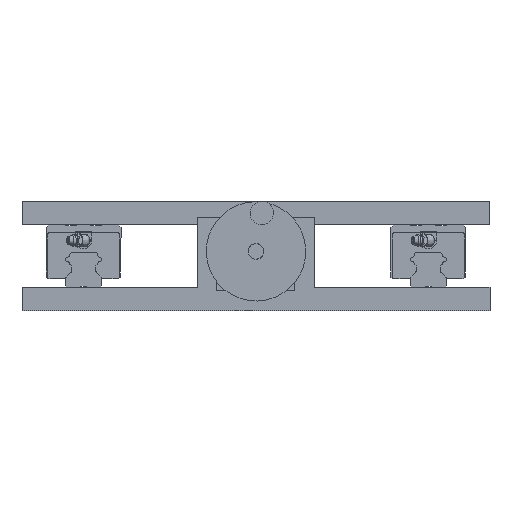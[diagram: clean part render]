
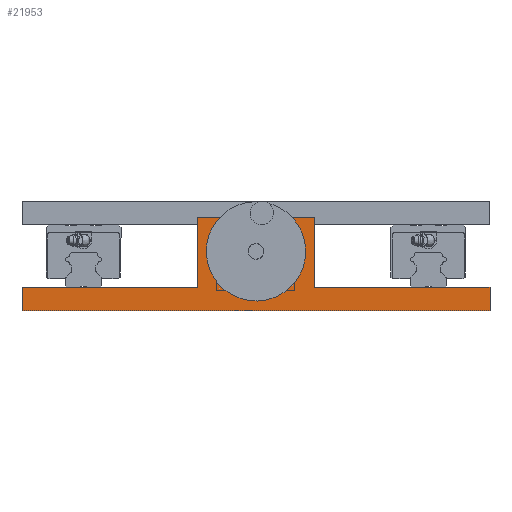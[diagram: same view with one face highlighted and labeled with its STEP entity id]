
A CAD part, front view. The second image highlights one B-rep face of the part: STEP entity #21953.
In plain terms, the highlighted planar face has unit normal (0, -1, 0).
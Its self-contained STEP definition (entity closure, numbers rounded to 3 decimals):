
#325 = EDGE_CURVE ( 'NONE', #37382, #14795, #24314, .T. ) ;
#616 = AXIS2_PLACEMENT_3D ( 'NONE', #9448, #18464, #939 ) ;
#887 = EDGE_CURVE ( 'NONE', #13513, #11918, #2914, .T. ) ;
#939 = DIRECTION ( 'NONE',  ( 0., 0., 1. ) ) ;
#1176 = CARTESIAN_POINT ( 'NONE',  ( 73.378, 17.677, 281.666 ) ) ;
#1949 = CARTESIAN_POINT ( 'NONE',  ( -39.122, 17.677, 236.666 ) ) ;
#2886 = DIRECTION ( 'NONE',  ( 1., 0., 0. ) ) ;
#2914 = CIRCLE ( 'NONE', #22353, 5. ) ;
#3564 = ORIENTED_EDGE ( 'NONE', *, *, #21826, .F. ) ;
#4345 = CARTESIAN_POINT ( 'NONE',  ( 148.378, 17.677, 236.666 ) ) ;
#4479 = PLANE ( 'NONE',  #9711 ) ;
#4854 = DIRECTION ( 'NONE',  ( 0., 1., 0. ) ) ;
#5049 = DIRECTION ( 'NONE',  ( 0., 0., -1. ) ) ;
#5397 = CARTESIAN_POINT ( 'NONE',  ( 148.378, 17.677, 281.666 ) ) ;
#5402 = VERTEX_POINT ( 'NONE', #19470 ) ;
#6240 = CARTESIAN_POINT ( 'NONE',  ( 110.878, 17.677, 259.666 ) ) ;
#7334 = EDGE_CURVE ( 'NONE', #16078, #31750, #29229, .T. ) ;
#7681 = CARTESIAN_POINT ( 'NONE',  ( 73.378, 17.677, 281.666 ) ) ;
#8345 = EDGE_LOOP ( 'NONE', ( #28162, #22720 ) ) ;
#8401 = ORIENTED_EDGE ( 'NONE', *, *, #10851, .F. ) ;
#8778 = CARTESIAN_POINT ( 'NONE',  ( -39.122, 17.677, 236.666 ) ) ;
#9448 = CARTESIAN_POINT ( 'NONE',  ( 110.878, 17.677, 259.666 ) ) ;
#9623 = VECTOR ( 'NONE', #14375, 1000. ) ;
#9711 = AXIS2_PLACEMENT_3D ( 'NONE', #1949, #4854, #16395 ) ;
#9946 = DIRECTION ( 'NONE',  ( 1., 0., 0. ) ) ;
#10312 = CARTESIAN_POINT ( 'NONE',  ( 260.878, 17.677, 236.666 ) ) ;
#10357 = VECTOR ( 'NONE', #5049, 1000. ) ;
#10851 = EDGE_CURVE ( 'NONE', #5402, #12912, #35937, .T. ) ;
#11128 = EDGE_CURVE ( 'NONE', #32484, #37382, #32739, .T. ) ;
#11133 = EDGE_CURVE ( 'NONE', #5402, #16078, #37291, .T. ) ;
#11272 = CARTESIAN_POINT ( 'NONE',  ( 110.878, 17.677, 264.666 ) ) ;
#11518 = CARTESIAN_POINT ( 'NONE',  ( -39.122, 17.677, 221.666 ) ) ;
#11918 = VERTEX_POINT ( 'NONE', #11272 ) ;
#11947 = DIRECTION ( 'NONE',  ( 0., 0., 1. ) ) ;
#12592 = CIRCLE ( 'NONE', #616, 5. ) ;
#12675 = ORIENTED_EDGE ( 'NONE', *, *, #17898, .T. ) ;
#12912 = VERTEX_POINT ( 'NONE', #17408 ) ;
#13513 = VERTEX_POINT ( 'NONE', #20306 ) ;
#13650 = ORIENTED_EDGE ( 'NONE', *, *, #11133, .T. ) ;
#13864 = VECTOR ( 'NONE', #16452, 1000. ) ;
#14179 = CARTESIAN_POINT ( 'NONE',  ( 73.378, 17.677, 281.666 ) ) ;
#14373 = VERTEX_POINT ( 'NONE', #7681 ) ;
#14375 = DIRECTION ( 'NONE',  ( 0., 0., -1. ) ) ;
#14795 = VERTEX_POINT ( 'NONE', #10312 ) ;
#16078 = VERTEX_POINT ( 'NONE', #22199 ) ;
#16373 = VECTOR ( 'NONE', #29157, 1000. ) ;
#16395 = DIRECTION ( 'NONE',  ( 0., 0., 1. ) ) ;
#16452 = DIRECTION ( 'NONE',  ( 1., 0., 0. ) ) ;
#17135 = LINE ( 'NONE', #28149, #10357 ) ;
#17408 = CARTESIAN_POINT ( 'NONE',  ( 73.378, 17.677, 236.666 ) ) ;
#17417 = ORIENTED_EDGE ( 'NONE', *, *, #7334, .T. ) ;
#17898 = EDGE_CURVE ( 'NONE', #14373, #12912, #18206, .T. ) ;
#18206 = LINE ( 'NONE', #14179, #16373 ) ;
#18464 = DIRECTION ( 'NONE',  ( 0., -1., 0. ) ) ;
#19224 = FACE_BOUND ( 'NONE', #8345, .T. ) ;
#19470 = CARTESIAN_POINT ( 'NONE',  ( -39.122, 17.677, 236.666 ) ) ;
#20306 = CARTESIAN_POINT ( 'NONE',  ( 110.878, 17.677, 254.666 ) ) ;
#20550 = VECTOR ( 'NONE', #37307, 1000. ) ;
#20913 = ORIENTED_EDGE ( 'NONE', *, *, #11128, .F. ) ;
#20963 = DIRECTION ( 'NONE',  ( 0., 0., -1. ) ) ;
#21826 = EDGE_CURVE ( 'NONE', #14373, #32484, #27880, .T. ) ;
#21953 = ADVANCED_FACE ( 'NONE', ( #19224, #35523 ), #4479, .F. ) ;
#22199 = CARTESIAN_POINT ( 'NONE',  ( -39.122, 17.677, 221.666 ) ) ;
#22353 = AXIS2_PLACEMENT_3D ( 'NONE', #6240, #34999, #11947 ) ;
#22720 = ORIENTED_EDGE ( 'NONE', *, *, #887, .F. ) ;
#22756 = ORIENTED_EDGE ( 'NONE', *, *, #325, .F. ) ;
#22950 = ORIENTED_EDGE ( 'NONE', *, *, #32791, .F. ) ;
#23750 = VECTOR ( 'NONE', #2886, 1000. ) ;
#24027 = EDGE_LOOP ( 'NONE', ( #17417, #22950, #22756, #20913, #3564, #12675, #8401, #13650 ) ) ;
#24314 = LINE ( 'NONE', #24957, #13864 ) ;
#24957 = CARTESIAN_POINT ( 'NONE',  ( -39.122, 17.677, 236.666 ) ) ;
#25153 = VECTOR ( 'NONE', #9946, 1000. ) ;
#26540 = CARTESIAN_POINT ( 'NONE',  ( 148.378, 17.677, 281.666 ) ) ;
#27880 = LINE ( 'NONE', #1176, #25153 ) ;
#28149 = CARTESIAN_POINT ( 'NONE',  ( 260.878, 17.677, 236.666 ) ) ;
#28162 = ORIENTED_EDGE ( 'NONE', *, *, #32918, .F. ) ;
#29157 = DIRECTION ( 'NONE',  ( 0., 0., -1. ) ) ;
#29229 = LINE ( 'NONE', #11518, #23750 ) ;
#31750 = VERTEX_POINT ( 'NONE', #33577 ) ;
#32484 = VERTEX_POINT ( 'NONE', #5397 ) ;
#32739 = LINE ( 'NONE', #26540, #9623 ) ;
#32791 = EDGE_CURVE ( 'NONE', #14795, #31750, #17135, .T. ) ;
#32918 = EDGE_CURVE ( 'NONE', #11918, #13513, #12592, .T. ) ;
#33577 = CARTESIAN_POINT ( 'NONE',  ( 260.878, 17.677, 221.666 ) ) ;
#34119 = VECTOR ( 'NONE', #20963, 1000. ) ;
#34517 = CARTESIAN_POINT ( 'NONE',  ( -39.122, 17.677, 236.666 ) ) ;
#34999 = DIRECTION ( 'NONE',  ( 0., -1., 0. ) ) ;
#35523 = FACE_OUTER_BOUND ( 'NONE', #24027, .T. ) ;
#35937 = LINE ( 'NONE', #34517, #20550 ) ;
#37291 = LINE ( 'NONE', #8778, #34119 ) ;
#37307 = DIRECTION ( 'NONE',  ( 1., 0., 0. ) ) ;
#37382 = VERTEX_POINT ( 'NONE', #4345 ) ;
